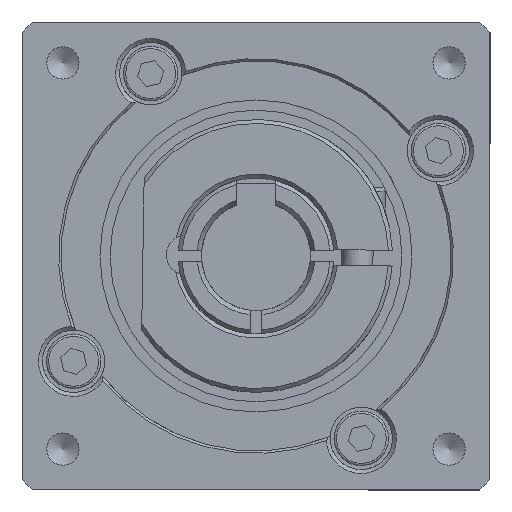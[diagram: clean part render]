
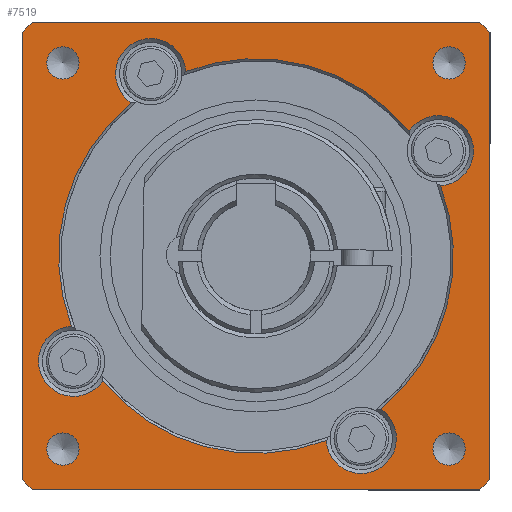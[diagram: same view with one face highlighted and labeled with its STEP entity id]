
A CAD part, front view. The second image highlights one B-rep face of the part: STEP entity #7519.
In plain terms, the highlighted planar face has unit normal (0, -1, 0).
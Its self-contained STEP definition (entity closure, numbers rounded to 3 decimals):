
#7255=CARTESIAN_POINT('',(-19.622,-18.,-15.971));
#7256=VERTEX_POINT('',#7255);
#7264=CARTESIAN_POINT('',(9.007,-18.,-23.642));
#7265=VERTEX_POINT('',#7264);
#7266=CARTESIAN_POINT('',(0.,-18.,0.));
#7267=DIRECTION('',(0.0,-1.0,0.0));
#7268=DIRECTION('',(0.0,0.0,-1.0));
#7269=AXIS2_PLACEMENT_3D('',#7266,#7267,#7268);
#7270=CIRCLE('',#7269,25.3);
#7271=EDGE_CURVE('',#7256,#7265,#7270,.T.);
#7298=CARTESIAN_POINT('',(15.971,-18.,-19.622));
#7299=VERTEX_POINT('',#7298);
#7300=CARTESIAN_POINT('',(13.5,-18.,-23.383));
#7301=DIRECTION('',(0.0,-1.0,0.0));
#7302=DIRECTION('',(1.0,0.0,0.0));
#7303=AXIS2_PLACEMENT_3D('',#7300,#7301,#7302);
#7304=CIRCLE('',#7303,4.5);
#7305=EDGE_CURVE('',#7265,#7299,#7304,.T.);
#7344=CARTESIAN_POINT('',(0.,-18.,-33.25));
#7345=DIRECTION('',(0.0,-1.0,0.0));
#7346=DIRECTION('',(-1.0,0.0,0.0));
#7347=AXIS2_PLACEMENT_3D('',#7344,#7345,#7346);
#7348=PLANE('',#7347);
#7349=CARTESIAN_POINT('',(28.675,-18.,30.));
#7350=VERTEX_POINT('',#7349);
#7351=CARTESIAN_POINT('',(-28.675,-18.,30.));
#7352=VERTEX_POINT('',#7351);
#7353=CARTESIAN_POINT('',(28.675,-18.,30.));
#7354=DIRECTION('',(-1.0,0.0,0.0));
#7355=VECTOR('',#7354,57.35);
#7356=LINE('',#7353,#7355);
#7357=EDGE_CURVE('',#7350,#7352,#7356,.T.);
#7358=ORIENTED_EDGE('',*,*,#7357,.T.);
#7359=CARTESIAN_POINT('',(-30.,-18.,28.675));
#7360=VERTEX_POINT('',#7359);
#7361=CARTESIAN_POINT('',(0.,-18.,0.));
#7362=DIRECTION('',(0.0,1.0,0.0));
#7363=DIRECTION('',(0.0,0.0,-1.0));
#7364=AXIS2_PLACEMENT_3D('',#7361,#7362,#7363);
#7365=CIRCLE('',#7364,41.5);
#7366=EDGE_CURVE('',#7360,#7352,#7365,.T.);
#7367=ORIENTED_EDGE('',*,*,#7366,.F.);
#7368=CARTESIAN_POINT('',(-30.,-18.,-28.675));
#7369=VERTEX_POINT('',#7368);
#7370=CARTESIAN_POINT('',(-30.,-18.,28.675));
#7371=DIRECTION('',(0.0,0.0,-1.0));
#7372=VECTOR('',#7371,57.35);
#7373=LINE('',#7370,#7372);
#7374=EDGE_CURVE('',#7360,#7369,#7373,.T.);
#7375=ORIENTED_EDGE('',*,*,#7374,.T.);
#7376=CARTESIAN_POINT('',(-28.675,-18.,-30.));
#7377=VERTEX_POINT('',#7376);
#7378=CARTESIAN_POINT('',(0.,-18.,0.));
#7379=DIRECTION('',(0.0,1.0,0.0));
#7380=DIRECTION('',(0.0,0.0,-1.0));
#7381=AXIS2_PLACEMENT_3D('',#7378,#7379,#7380);
#7382=CIRCLE('',#7381,41.5);
#7383=EDGE_CURVE('',#7377,#7369,#7382,.T.);
#7384=ORIENTED_EDGE('',*,*,#7383,.F.);
#7385=CARTESIAN_POINT('',(28.675,-18.,-30.));
#7386=VERTEX_POINT('',#7385);
#7387=CARTESIAN_POINT('',(-28.675,-18.,-30.));
#7388=DIRECTION('',(1.0,0.0,0.0));
#7389=VECTOR('',#7388,57.35);
#7390=LINE('',#7387,#7389);
#7391=EDGE_CURVE('',#7377,#7386,#7390,.T.);
#7392=ORIENTED_EDGE('',*,*,#7391,.T.);
#7393=CARTESIAN_POINT('',(30.,-18.,-28.675));
#7394=VERTEX_POINT('',#7393);
#7395=CARTESIAN_POINT('',(0.,-18.,0.));
#7396=DIRECTION('',(0.0,1.0,0.0));
#7397=DIRECTION('',(0.0,0.0,-1.0));
#7398=AXIS2_PLACEMENT_3D('',#7395,#7396,#7397);
#7399=CIRCLE('',#7398,41.5);
#7400=EDGE_CURVE('',#7394,#7386,#7399,.T.);
#7401=ORIENTED_EDGE('',*,*,#7400,.F.);
#7402=CARTESIAN_POINT('',(30.,-18.,28.675));
#7403=VERTEX_POINT('',#7402);
#7404=CARTESIAN_POINT('',(30.,-18.,-28.675));
#7405=DIRECTION('',(0.0,0.0,1.0));
#7406=VECTOR('',#7405,57.35);
#7407=LINE('',#7404,#7406);
#7408=EDGE_CURVE('',#7394,#7403,#7407,.T.);
#7409=ORIENTED_EDGE('',*,*,#7408,.T.);
#7410=CARTESIAN_POINT('',(0.,-18.,0.));
#7411=DIRECTION('',(0.0,1.0,0.0));
#7412=DIRECTION('',(0.0,0.0,-1.0));
#7413=AXIS2_PLACEMENT_3D('',#7410,#7411,#7412);
#7414=CIRCLE('',#7413,41.5);
#7415=EDGE_CURVE('',#7350,#7403,#7414,.T.);
#7416=ORIENTED_EDGE('',*,*,#7415,.F.);
#7417=EDGE_LOOP('',(#7358,#7367,#7375,#7384,#7392,#7401,#7409,#7416));
#7418=FACE_OUTER_BOUND('',#7417,.T.);
#7419=CARTESIAN_POINT('',(-26.816,-18.,-24.749));
#7420=VERTEX_POINT('',#7419);
#7421=CARTESIAN_POINT('',(-24.749,-18.,-24.749));
#7422=DIRECTION('',(0.0,1.0,0.0));
#7423=DIRECTION('',(-1.0,0.0,0.0));
#7424=AXIS2_PLACEMENT_3D('',#7421,#7422,#7423);
#7425=CIRCLE('',#7424,2.067);
#7426=EDGE_CURVE('',#7420,#7420,#7425,.T.);
#7427=ORIENTED_EDGE('',*,*,#7426,.T.);
#7428=EDGE_LOOP('',(#7427));
#7429=FACE_BOUND('',#7428,.T.);
#7430=CARTESIAN_POINT('',(-24.749,-18.,26.816));
#7431=VERTEX_POINT('',#7430);
#7432=CARTESIAN_POINT('',(-24.749,-18.,24.749));
#7433=DIRECTION('',(0.0,1.0,0.0));
#7434=DIRECTION('',(0.0,0.0,1.0));
#7435=AXIS2_PLACEMENT_3D('',#7432,#7433,#7434);
#7436=CIRCLE('',#7435,2.067);
#7437=EDGE_CURVE('',#7431,#7431,#7436,.T.);
#7438=ORIENTED_EDGE('',*,*,#7437,.T.);
#7439=EDGE_LOOP('',(#7438));
#7440=FACE_BOUND('',#7439,.T.);
#7441=CARTESIAN_POINT('',(26.816,-18.,24.749));
#7442=VERTEX_POINT('',#7441);
#7443=CARTESIAN_POINT('',(24.749,-18.,24.749));
#7444=DIRECTION('',(0.0,1.0,0.0));
#7445=DIRECTION('',(1.0,0.0,0.0));
#7446=AXIS2_PLACEMENT_3D('',#7443,#7444,#7445);
#7447=CIRCLE('',#7446,2.067);
#7448=EDGE_CURVE('',#7442,#7442,#7447,.T.);
#7449=ORIENTED_EDGE('',*,*,#7448,.T.);
#7450=EDGE_LOOP('',(#7449));
#7451=FACE_BOUND('',#7450,.T.);
#7452=CARTESIAN_POINT('',(24.749,-18.,-26.816));
#7453=VERTEX_POINT('',#7452);
#7454=CARTESIAN_POINT('',(24.749,-18.,-24.749));
#7455=DIRECTION('',(0.0,1.0,0.0));
#7456=DIRECTION('',(0.0,0.0,-1.0));
#7457=AXIS2_PLACEMENT_3D('',#7454,#7455,#7456);
#7458=CIRCLE('',#7457,2.067);
#7459=EDGE_CURVE('',#7453,#7453,#7458,.T.);
#7460=ORIENTED_EDGE('',*,*,#7459,.T.);
#7461=EDGE_LOOP('',(#7460));
#7462=FACE_BOUND('',#7461,.T.);
#7463=ORIENTED_EDGE('',*,*,#7271,.F.);
#7464=CARTESIAN_POINT('',(-23.642,-18.,-9.007));
#7465=VERTEX_POINT('',#7464);
#7466=CARTESIAN_POINT('',(-23.383,-18.,-13.5));
#7467=DIRECTION('',(0.0,-1.0,0.0));
#7468=DIRECTION('',(0.0,0.0,-1.0));
#7469=AXIS2_PLACEMENT_3D('',#7466,#7467,#7468);
#7470=CIRCLE('',#7469,4.5);
#7471=EDGE_CURVE('',#7465,#7256,#7470,.T.);
#7472=ORIENTED_EDGE('',*,*,#7471,.F.);
#7473=CARTESIAN_POINT('',(-15.971,-18.,19.622));
#7474=VERTEX_POINT('',#7473);
#7475=CARTESIAN_POINT('',(0.,-18.,0.));
#7476=DIRECTION('',(0.0,-1.0,0.0));
#7477=DIRECTION('',(0.0,0.0,1.0));
#7478=AXIS2_PLACEMENT_3D('',#7475,#7476,#7477);
#7479=CIRCLE('',#7478,25.3);
#7480=EDGE_CURVE('',#7474,#7465,#7479,.T.);
#7481=ORIENTED_EDGE('',*,*,#7480,.F.);
#7482=CARTESIAN_POINT('',(-9.007,-18.,23.642));
#7483=VERTEX_POINT('',#7482);
#7484=CARTESIAN_POINT('',(-13.5,-18.,23.383));
#7485=DIRECTION('',(0.0,-1.0,0.0));
#7486=DIRECTION('',(-1.0,0.0,0.0));
#7487=AXIS2_PLACEMENT_3D('',#7484,#7485,#7486);
#7488=CIRCLE('',#7487,4.5);
#7489=EDGE_CURVE('',#7483,#7474,#7488,.T.);
#7490=ORIENTED_EDGE('',*,*,#7489,.F.);
#7491=CARTESIAN_POINT('',(19.622,-18.,15.971));
#7492=VERTEX_POINT('',#7491);
#7493=CARTESIAN_POINT('',(0.,-18.,0.));
#7494=DIRECTION('',(0.0,-1.0,0.0));
#7495=DIRECTION('',(0.0,0.0,1.0));
#7496=AXIS2_PLACEMENT_3D('',#7493,#7494,#7495);
#7497=CIRCLE('',#7496,25.3);
#7498=EDGE_CURVE('',#7492,#7483,#7497,.T.);
#7499=ORIENTED_EDGE('',*,*,#7498,.F.);
#7500=CARTESIAN_POINT('',(23.642,-18.,9.007));
#7501=VERTEX_POINT('',#7500);
#7502=CARTESIAN_POINT('',(23.383,-18.,13.5));
#7503=DIRECTION('',(0.0,-1.0,0.0));
#7504=DIRECTION('',(0.0,0.0,1.0));
#7505=AXIS2_PLACEMENT_3D('',#7502,#7503,#7504);
#7506=CIRCLE('',#7505,4.5);
#7507=EDGE_CURVE('',#7501,#7492,#7506,.T.);
#7508=ORIENTED_EDGE('',*,*,#7507,.F.);
#7509=CARTESIAN_POINT('',(0.,-18.,0.));
#7510=DIRECTION('',(0.0,-1.0,0.0));
#7511=DIRECTION('',(0.0,0.0,-1.0));
#7512=AXIS2_PLACEMENT_3D('',#7509,#7510,#7511);
#7513=CIRCLE('',#7512,25.3);
#7514=EDGE_CURVE('',#7299,#7501,#7513,.T.);
#7515=ORIENTED_EDGE('',*,*,#7514,.F.);
#7516=ORIENTED_EDGE('',*,*,#7305,.F.);
#7517=EDGE_LOOP('',(#7463,#7472,#7481,#7490,#7499,#7508,#7515,#7516));
#7518=FACE_BOUND('',#7517,.T.);
#7519=ADVANCED_FACE('',(#7418,#7429,#7440,#7451,#7462,#7518),#7348,.T.);
